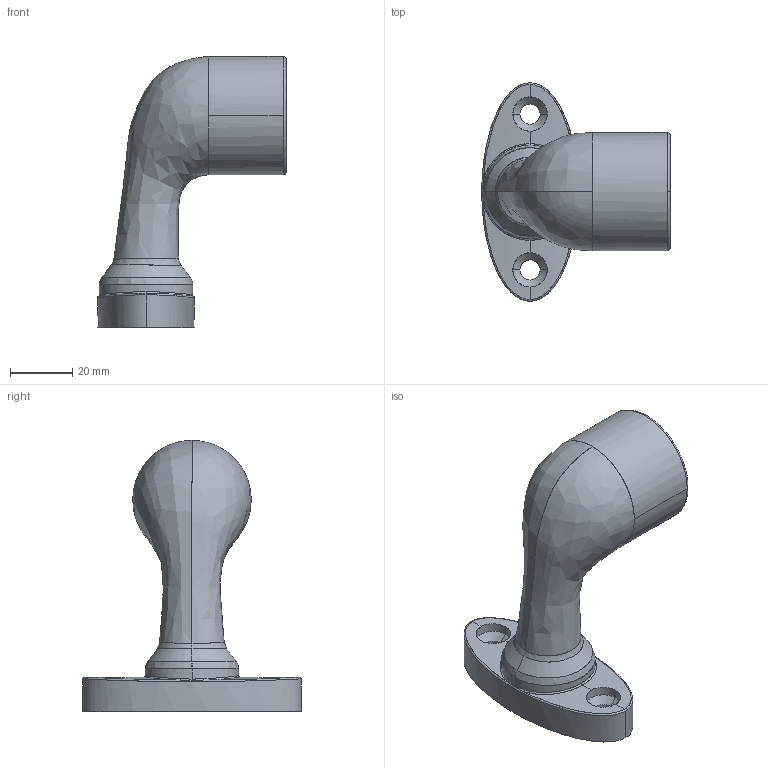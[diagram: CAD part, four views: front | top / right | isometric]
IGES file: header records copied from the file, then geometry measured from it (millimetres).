
Start section: SolidWorks IGES file using analytic representation for surfaces
Global section: file name: C:\Users\Gerard\OneDrive - Tecnodin, S.L\Escritorio\30 mm Verbinder im step. Format\31000410048.IGS; native system: SolidWorks 2016; preprocessor: SolidWorks 2016; author: Gerard; date: 240902.113200; units: millimetre
Bounding box: 60.5 x 70 x 87 mm (x, y, z)
Surface area: 20019.7 mm2 (no closed solid volume)
Topology: 0 solids, 0 shells, 121 faces, 1628 edges, 1624 vertices
Faces by surface type: bspline 71, revolution 50
